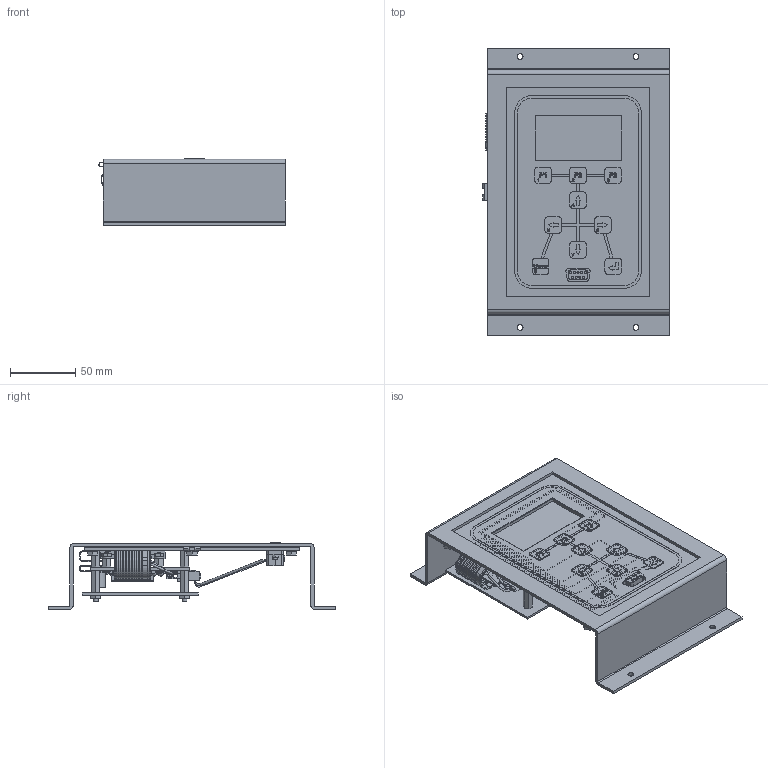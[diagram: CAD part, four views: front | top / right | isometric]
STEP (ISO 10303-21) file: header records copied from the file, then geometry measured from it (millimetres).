
FILE_DESCRIPTION((' '),'2;1');
FILE_NAME('C:\Users\mschreiber\Desktop\MAG-KEYPAD-PANEL (2014-11-25).stp','2014-12-04T14:54:59',(' '),(' '),' ','ACIS',' ');
FILE_SCHEMA(('CONFIG_CONTROL_DESIGN'));
Length unit declared in the file: millimetre
Products named in the file (302): C:\Users\mschreiber\Desktop\MAG-KEYPAD-PANEL (2014-11-25).stp; MAG-KEYPAD-PANEL (2014-11-25)_ForBodies; Body1; Body2; Body3; Body4; Body5; Body6; Body7; Body8; Body9; Body10; Body11; Body12; Body13; Body14; Body15; Body16; Body17; Body18; Body19; Body20; Body21; Body22; Body23; Body24; Body25; Body26; Body27; Body28; Body29; Body30; Body31; Body32; Body33; Body34; Body35; Body36; Body37; Body38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
Assembly tree (301 placements, depth 2):
  C:\Users\mschreiber\Desktop\MAG-KEYPAD-PANEL (2014-11-25).stp
    MAG-KEYPAD-PANEL (2014-11-25)_ForBodies
    Body1
    Body2
    Body3
    Body4
    Body5
    Body6
    Body7
    Body8
    Body9
    Body10
    Body11
    Body12
    Body13
    Body14
    Body15
    Body16
    Body17
    Body18
    Body19
    Body20
    Body21
    Body22
    Body23
    Body24
    Body25
    Body26
    Body27
    Body28
    Body29
    Body30
    Body31
    Body32
    Body33
    Body34
    Body35
    Body36
    Body37
    Body38
    Body39
    Body40
    Body41
    Body42
    Body43
    Body44
    Body45
    Body46
    Body47
    Body48
    Body49
    Body50
    Body51
    Body52
    Body53
    Body54
    Body55
    Body56
    Body57
    Body58
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Bounding box: 142.81 x 220.66 x 51.36 mm (x, y, z)
Volume: 202665.6 mm3; surface area: 394234.4 mm2
Topology: 300 solids, 301 shells, 5489 faces, 14545 edges, 9679 vertices
Faces by surface type: plane 4641, cylinder 808, torus 24, bspline 8, sphere 8
Full cylindrical faces by diameter (mm): 0.762 x8, 0.889 x2, 1.651 x21, 2.386 x1, 2.794 x32, 2.845 x4, 3.124 x4, 3.302 x2, 3.505 x36, 3.572 x4, 3.607 x5, 3.81 x8, 3.912 x1, 4.445 x44, 5.359 x8, 6.147 x5, 8.633 x2, 9.601 x1, 10.16 x1
Entity records: 213358 total; most frequent: CARTESIAN_POINT 33275, ORIENTED_EDGE 28356, DIRECTION 27867, EDGE_CURVE 14207, VECTOR 12507, LINE 12507, VERTEX_POINT 9560, AXIS2_PLACEMENT_3D 7680
